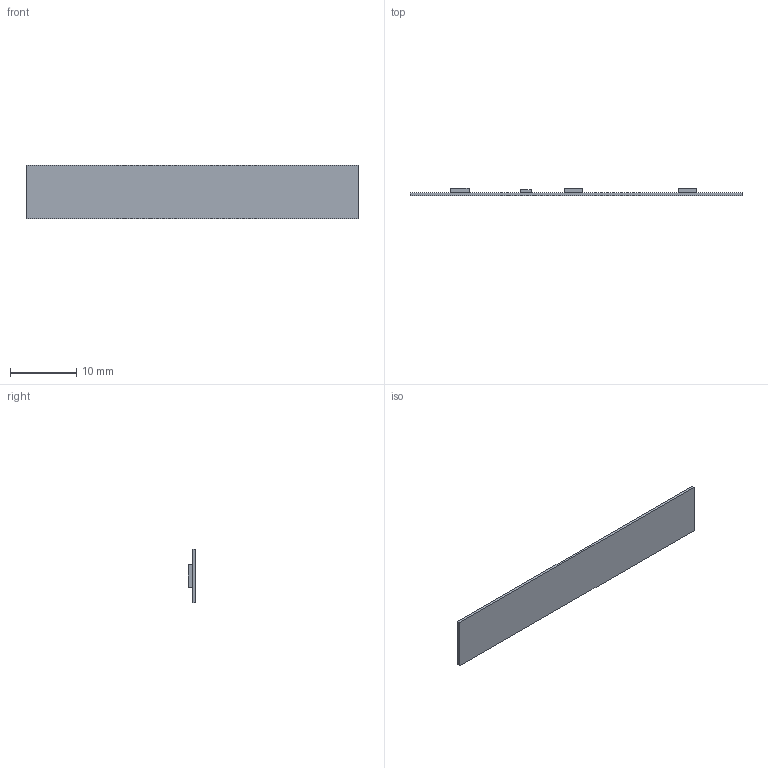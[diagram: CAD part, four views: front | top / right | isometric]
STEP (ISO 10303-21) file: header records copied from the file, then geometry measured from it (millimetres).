
FILE_DESCRIPTION (( 'STEP AP214' ), '1' );
FILE_NAME ('STRONG LED pásek 4,8W-m 12V_132251 a 131573 a 249934_3D.STEP', '2020-06-09T08:44:14', ( '' ), ( '' ), 'SwSTEP 2.0', 'SolidWorks 2019', '' );
FILE_SCHEMA (( 'AUTOMOTIVE_DESIGN' ));
Length unit declared in the file: millimetre
Products named in the file (1): STRONG LED pásek 4,8W-m 12V_132251 a 131573 a 249934_3D
Bounding box: 50 x 1.1 x 8 mm (x, y, z)
Volume: 182.6 mm3; surface area: 877.2 mm2
Topology: 1 solids, 1 shells, 26 faces, 60 edges, 40 vertices
Faces by surface type: plane 26
Entity records: 758 total; most frequent: CARTESIAN_POINT 127, ORIENTED_EDGE 120, DIRECTION 114, LINE 60, VECTOR 60, EDGE_CURVE 60, VERTEX_POINT 40, EDGE_LOOP 30
